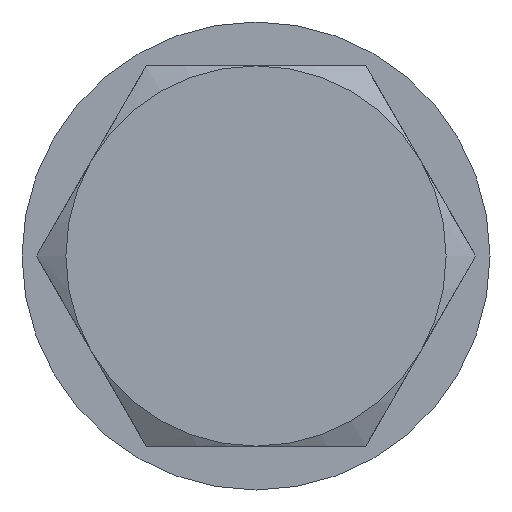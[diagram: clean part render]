
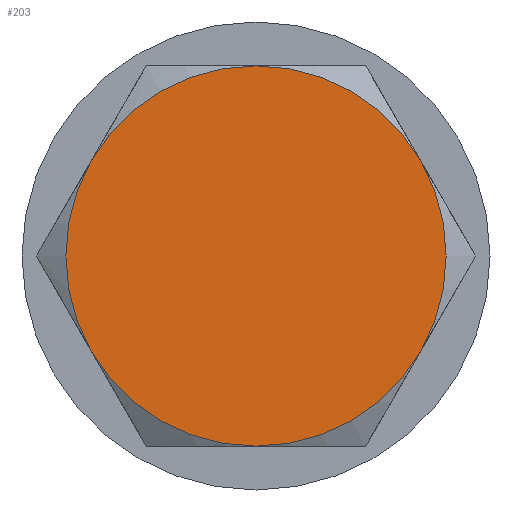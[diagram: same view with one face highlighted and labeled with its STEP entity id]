
A CAD part, left-side view. The second image highlights one B-rep face of the part: STEP entity #203.
In plain terms, the highlighted planar face has unit normal (-1, 0, 0).
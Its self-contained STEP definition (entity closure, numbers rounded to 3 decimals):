
#203 = ADVANCED_FACE( '', ( #389 ), #390, .T. );
#389 = FACE_OUTER_BOUND( '', #584, .T. );
#390 = PLANE( '', #585 );
#584 = EDGE_LOOP( '', ( #768, #769, #770, #771, #772, #773 ) );
#585 = AXIS2_PLACEMENT_3D( '', #774, #775, #776 );
#768 = ORIENTED_EDGE( '', *, *, #1055, .T. );
#769 = ORIENTED_EDGE( '', *, *, #1046, .T. );
#770 = ORIENTED_EDGE( '', *, *, #1056, .T. );
#771 = ORIENTED_EDGE( '', *, *, #1057, .T. );
#772 = ORIENTED_EDGE( '', *, *, #1058, .T. );
#773 = ORIENTED_EDGE( '', *, *, #1059, .T. );
#774 = CARTESIAN_POINT( '', ( -5.5, 3.25, 0. ) );
#775 = DIRECTION( '', ( -1., 0., 0. ) );
#776 = DIRECTION( '', ( 0., 0., 1. ) );
#1046 = EDGE_CURVE( '', #1185, #1186, #1187, .T. );
#1055 = EDGE_CURVE( '', #1201, #1185, #1202, .T. );
#1056 = EDGE_CURVE( '', #1186, #1203, #1204, .T. );
#1057 = EDGE_CURVE( '', #1203, #1205, #1206, .T. );
#1058 = EDGE_CURVE( '', #1205, #1207, #1208, .T. );
#1059 = EDGE_CURVE( '', #1207, #1201, #1209, .T. );
#1185 = VERTEX_POINT( '', #1397 );
#1186 = VERTEX_POINT( '', #1398 );
#1187 = CIRCLE( '', #1399, 6.5 );
#1201 = VERTEX_POINT( '', #1451 );
#1202 = CIRCLE( '', #1452, 6.5 );
#1203 = VERTEX_POINT( '', #1453 );
#1204 = CIRCLE( '', #1454, 6.5 );
#1205 = VERTEX_POINT( '', #1455 );
#1206 = CIRCLE( '', #1456, 6.5 );
#1207 = VERTEX_POINT( '', #1457 );
#1208 = CIRCLE( '', #1458, 6.5 );
#1209 = CIRCLE( '', #1459, 6.5 );
#1397 = CARTESIAN_POINT( '', ( -5.5, 5.629, 3.25 ) );
#1398 = CARTESIAN_POINT( '', ( -5.5, 5.629, -3.25 ) );
#1399 = AXIS2_PLACEMENT_3D( '', #1745, #1746, #1747 );
#1451 = CARTESIAN_POINT( '', ( -5.5, 0., 6.5 ) );
#1452 = AXIS2_PLACEMENT_3D( '', #1750, #1751, #1752 );
#1453 = CARTESIAN_POINT( '', ( -5.5, 0., -6.5 ) );
#1454 = AXIS2_PLACEMENT_3D( '', #1753, #1754, #1755 );
#1455 = CARTESIAN_POINT( '', ( -5.5, -5.629, -3.25 ) );
#1456 = AXIS2_PLACEMENT_3D( '', #1756, #1757, #1758 );
#1457 = CARTESIAN_POINT( '', ( -5.5, -5.629, 3.25 ) );
#1458 = AXIS2_PLACEMENT_3D( '', #1759, #1760, #1761 );
#1459 = AXIS2_PLACEMENT_3D( '', #1762, #1763, #1764 );
#1745 = CARTESIAN_POINT( '', ( -5.5, 0., 0. ) );
#1746 = DIRECTION( '', ( -1., 0., 0. ) );
#1747 = DIRECTION( '', ( 0., 1., 0. ) );
#1750 = CARTESIAN_POINT( '', ( -5.5, 0., 0. ) );
#1751 = DIRECTION( '', ( -1., 0., 0. ) );
#1752 = DIRECTION( '', ( 0., 1., 0. ) );
#1753 = CARTESIAN_POINT( '', ( -5.5, 0., 0. ) );
#1754 = DIRECTION( '', ( -1., 0., 0. ) );
#1755 = DIRECTION( '', ( 0., 1., 0. ) );
#1756 = CARTESIAN_POINT( '', ( -5.5, 0., 0. ) );
#1757 = DIRECTION( '', ( -1., 0., 0. ) );
#1758 = DIRECTION( '', ( 0., 1., 0. ) );
#1759 = CARTESIAN_POINT( '', ( -5.5, 0., 0. ) );
#1760 = DIRECTION( '', ( -1., 0., 0. ) );
#1761 = DIRECTION( '', ( 0., 1., 0. ) );
#1762 = CARTESIAN_POINT( '', ( -5.5, 0., 0. ) );
#1763 = DIRECTION( '', ( -1., 0., 0. ) );
#1764 = DIRECTION( '', ( 0., 1., 0. ) );
